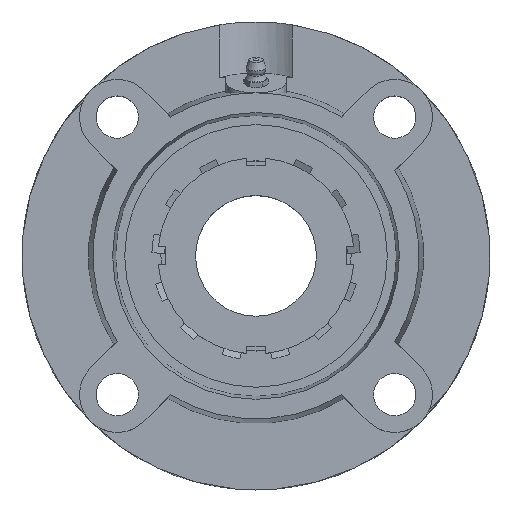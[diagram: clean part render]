
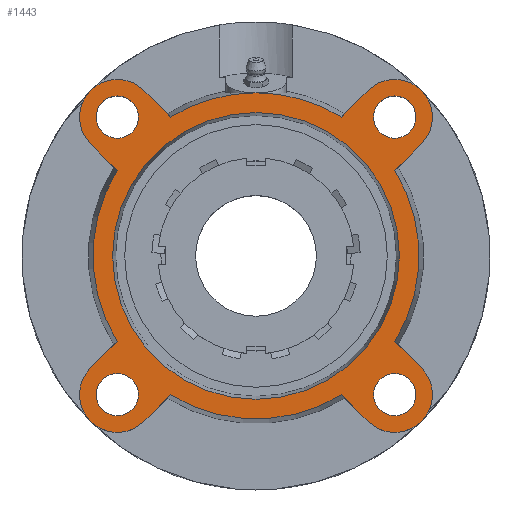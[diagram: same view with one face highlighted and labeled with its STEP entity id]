
A CAD part, top view. The second image highlights one B-rep face of the part: STEP entity #1443.
In plain terms, the highlighted planar face has unit normal (0, 0, 1).
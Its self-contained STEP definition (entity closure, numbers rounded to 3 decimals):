
#181=CARTESIAN_POINT('',(38.962,-45.962,17.));
#182=VERTEX_POINT('',#181);
#183=CARTESIAN_POINT('',(45.962,-45.962,17.));
#184=DIRECTION('',(0.0,0.0,-1.0));
#185=DIRECTION('',(1.0,0.0,0.0));
#186=AXIS2_PLACEMENT_3D('',#183,#184,#185);
#187=CIRCLE('',#186,7.);
#188=EDGE_CURVE('',#182,#182,#187,.T.);
#209=CARTESIAN_POINT('',(-52.962,45.962,17.));
#210=VERTEX_POINT('',#209);
#211=CARTESIAN_POINT('',(-45.962,45.962,17.));
#212=DIRECTION('',(0.0,0.0,-1.0));
#213=DIRECTION('',(1.0,0.0,0.0));
#214=AXIS2_PLACEMENT_3D('',#211,#212,#213);
#215=CIRCLE('',#214,7.);
#216=EDGE_CURVE('',#210,#210,#215,.T.);
#237=CARTESIAN_POINT('',(-52.962,-45.962,17.));
#238=VERTEX_POINT('',#237);
#239=CARTESIAN_POINT('',(-45.962,-45.962,17.));
#240=DIRECTION('',(0.0,0.0,-1.0));
#241=DIRECTION('',(1.0,0.0,0.0));
#242=AXIS2_PLACEMENT_3D('',#239,#240,#241);
#243=CIRCLE('',#242,7.);
#244=EDGE_CURVE('',#238,#238,#243,.T.);
#265=CARTESIAN_POINT('',(38.962,45.962,17.));
#266=VERTEX_POINT('',#265);
#267=CARTESIAN_POINT('',(45.962,45.962,17.));
#268=DIRECTION('',(0.0,0.0,-1.0));
#269=DIRECTION('',(1.0,0.0,0.0));
#270=AXIS2_PLACEMENT_3D('',#267,#268,#269);
#271=CIRCLE('',#270,7.);
#272=EDGE_CURVE('',#266,#266,#271,.T.);
#445=CARTESIAN_POINT('',(0.0,47.5,17.));
#446=VERTEX_POINT('',#445);
#447=CARTESIAN_POINT('',(0.0,0.,17.));
#448=DIRECTION('',(0.0,0.0,-1.0));
#449=DIRECTION('',(0.0,1.0,0.0));
#450=AXIS2_PLACEMENT_3D('',#447,#448,#449);
#451=CIRCLE('',#450,47.5);
#452=EDGE_CURVE('',#446,#446,#451,.T.);
#722=CARTESIAN_POINT('',(0.,54.0,17.));
#723=VERTEX_POINT('',#722);
#845=CARTESIAN_POINT('',(-28.308,45.986,17.));
#846=VERTEX_POINT('',#845);
#860=CARTESIAN_POINT('',(0.0,0.,17.));
#861=DIRECTION('',(0.0,0.0,-1.0));
#862=DIRECTION('',(0.0,1.0,0.0));
#863=AXIS2_PLACEMENT_3D('',#860,#861,#862);
#864=CIRCLE('',#863,54.0);
#865=EDGE_CURVE('',#846,#723,#864,.T.);
#878=CARTESIAN_POINT('',(28.308,45.986,17.));
#879=VERTEX_POINT('',#878);
#880=CARTESIAN_POINT('',(0.0,0.,17.));
#881=DIRECTION('',(0.0,0.0,-1.0));
#882=DIRECTION('',(0.0,1.0,0.0));
#883=AXIS2_PLACEMENT_3D('',#880,#881,#882);
#884=CIRCLE('',#883,54.0);
#885=EDGE_CURVE('',#723,#879,#884,.T.);
#909=CARTESIAN_POINT('',(-45.986,28.308,17.));
#910=VERTEX_POINT('',#909);
#926=CARTESIAN_POINT('',(-54.801,37.123,17.));
#927=VERTEX_POINT('',#926);
#928=CARTESIAN_POINT('',(-45.986,28.308,17.));
#929=DIRECTION('',(-0.707,0.707,0.0));
#930=VECTOR('',#929,12.467);
#931=LINE('',#928,#930);
#932=EDGE_CURVE('',#910,#927,#931,.T.);
#956=CARTESIAN_POINT('',(-28.308,-45.986,17.0));
#957=VERTEX_POINT('',#956);
#973=CARTESIAN_POINT('',(-37.123,-54.801,17.0));
#974=VERTEX_POINT('',#973);
#975=CARTESIAN_POINT('',(-28.308,-45.986,17.));
#976=DIRECTION('',(-0.707,-0.707,0.0));
#977=VECTOR('',#976,12.467);
#978=LINE('',#975,#977);
#979=EDGE_CURVE('',#957,#974,#978,.T.);
#1003=CARTESIAN_POINT('',(45.986,-28.308,17.0));
#1004=VERTEX_POINT('',#1003);
#1020=CARTESIAN_POINT('',(54.801,-37.123,17.0));
#1021=VERTEX_POINT('',#1020);
#1022=CARTESIAN_POINT('',(45.986,-28.308,17.));
#1023=DIRECTION('',(0.707,-0.707,0.0));
#1024=VECTOR('',#1023,12.467);
#1025=LINE('',#1022,#1024);
#1026=EDGE_CURVE('',#1004,#1021,#1025,.T.);
#1051=CARTESIAN_POINT('',(37.123,54.801,17.));
#1052=VERTEX_POINT('',#1051);
#1053=CARTESIAN_POINT('',(28.308,45.986,17.));
#1054=DIRECTION('',(0.707,0.707,0.0));
#1055=VECTOR('',#1054,12.467);
#1056=LINE('',#1053,#1055);
#1057=EDGE_CURVE('',#879,#1052,#1056,.T.);
#1076=CARTESIAN_POINT('',(28.308,-45.986,17.0));
#1077=VERTEX_POINT('',#1076);
#1099=CARTESIAN_POINT('',(37.123,-54.801,17.0));
#1100=VERTEX_POINT('',#1099);
#1107=CARTESIAN_POINT('',(37.123,-54.801,17.));
#1108=DIRECTION('',(-0.707,0.707,0.));
#1109=VECTOR('',#1108,12.467);
#1110=LINE('',#1107,#1109);
#1111=EDGE_CURVE('',#1100,#1077,#1110,.T.);
#1121=CARTESIAN_POINT('',(-54.801,-37.123,17.0));
#1122=VERTEX_POINT('',#1121);
#1123=CARTESIAN_POINT('',(-45.962,-45.962,17.));
#1124=DIRECTION('',(0.0,0.0,-1.0));
#1125=DIRECTION('',(-0.636,0.772,0.0));
#1126=AXIS2_PLACEMENT_3D('',#1123,#1124,#1125);
#1127=CIRCLE('',#1126,12.5);
#1128=EDGE_CURVE('',#974,#1122,#1127,.T.);
#1163=CARTESIAN_POINT('',(-45.986,-28.308,17.));
#1164=VERTEX_POINT('',#1163);
#1185=CARTESIAN_POINT('',(-54.801,-37.123,17.));
#1186=DIRECTION('',(0.707,0.707,0.));
#1187=VECTOR('',#1186,12.467);
#1188=LINE('',#1185,#1187);
#1189=EDGE_CURVE('',#1122,#1164,#1188,.T.);
#1199=CARTESIAN_POINT('',(-37.123,54.801,17.));
#1200=VERTEX_POINT('',#1199);
#1201=CARTESIAN_POINT('',(-45.962,45.962,17.));
#1202=DIRECTION('',(0.0,0.0,-1.0));
#1203=DIRECTION('',(0.772,0.636,0.0));
#1204=AXIS2_PLACEMENT_3D('',#1201,#1202,#1203);
#1205=CIRCLE('',#1204,12.5);
#1206=EDGE_CURVE('',#927,#1200,#1205,.T.);
#1234=CARTESIAN_POINT('',(-37.123,54.801,17.));
#1235=DIRECTION('',(0.707,-0.707,0.));
#1236=VECTOR('',#1235,12.467);
#1237=LINE('',#1234,#1236);
#1238=EDGE_CURVE('',#1200,#846,#1237,.T.);
#1248=CARTESIAN_POINT('',(54.801,37.123,17.));
#1249=VERTEX_POINT('',#1248);
#1250=CARTESIAN_POINT('',(45.962,45.962,17.));
#1251=DIRECTION('',(0.0,0.0,-1.0));
#1252=DIRECTION('',(0.636,-0.772,0.0));
#1253=AXIS2_PLACEMENT_3D('',#1250,#1251,#1252);
#1254=CIRCLE('',#1253,12.5);
#1255=EDGE_CURVE('',#1052,#1249,#1254,.T.);
#1284=CARTESIAN_POINT('',(45.986,28.308,17.));
#1285=VERTEX_POINT('',#1284);
#1306=CARTESIAN_POINT('',(54.801,37.123,17.));
#1307=DIRECTION('',(-0.707,-0.707,0.));
#1308=VECTOR('',#1307,12.467);
#1309=LINE('',#1306,#1308);
#1310=EDGE_CURVE('',#1249,#1285,#1309,.T.);
#1320=CARTESIAN_POINT('',(45.962,-45.962,17.));
#1321=DIRECTION('',(0.0,0.0,-1.0));
#1322=DIRECTION('',(-0.772,-0.636,0.0));
#1323=AXIS2_PLACEMENT_3D('',#1320,#1321,#1322);
#1324=CIRCLE('',#1323,12.5);
#1325=EDGE_CURVE('',#1021,#1100,#1324,.T.);
#1386=CARTESIAN_POINT('',(0.0,27.0,17.));
#1387=DIRECTION('',(0.0,0.0,1.0));
#1388=DIRECTION('',(1.0,0.0,0.0));
#1389=AXIS2_PLACEMENT_3D('',#1386,#1387,#1388);
#1390=PLANE('',#1389);
#1391=CARTESIAN_POINT('',(0.0,0.,17.));
#1392=DIRECTION('',(0.0,0.0,-1.0));
#1393=DIRECTION('',(0.0,1.0,0.0));
#1394=AXIS2_PLACEMENT_3D('',#1391,#1392,#1393);
#1395=CIRCLE('',#1394,54.0);
#1396=EDGE_CURVE('',#1077,#957,#1395,.T.);
#1397=ORIENTED_EDGE('',*,*,#1396,.F.);
#1398=ORIENTED_EDGE('',*,*,#1111,.F.);
#1399=ORIENTED_EDGE('',*,*,#1325,.F.);
#1400=ORIENTED_EDGE('',*,*,#1026,.F.);
#1401=CARTESIAN_POINT('',(0.0,0.,17.));
#1402=DIRECTION('',(0.0,0.0,-1.0));
#1403=DIRECTION('',(0.0,1.0,0.0));
#1404=AXIS2_PLACEMENT_3D('',#1401,#1402,#1403);
#1405=CIRCLE('',#1404,54.0);
#1406=EDGE_CURVE('',#1285,#1004,#1405,.T.);
#1407=ORIENTED_EDGE('',*,*,#1406,.F.);
#1408=ORIENTED_EDGE('',*,*,#1310,.F.);
#1409=ORIENTED_EDGE('',*,*,#1255,.F.);
#1410=ORIENTED_EDGE('',*,*,#1057,.F.);
#1411=ORIENTED_EDGE('',*,*,#885,.F.);
#1412=ORIENTED_EDGE('',*,*,#865,.F.);
#1413=ORIENTED_EDGE('',*,*,#1238,.F.);
#1414=ORIENTED_EDGE('',*,*,#1206,.F.);
#1415=ORIENTED_EDGE('',*,*,#932,.F.);
#1416=CARTESIAN_POINT('',(0.0,0.,17.));
#1417=DIRECTION('',(0.0,0.0,-1.0));
#1418=DIRECTION('',(0.0,1.0,0.0));
#1419=AXIS2_PLACEMENT_3D('',#1416,#1417,#1418);
#1420=CIRCLE('',#1419,54.0);
#1421=EDGE_CURVE('',#1164,#910,#1420,.T.);
#1422=ORIENTED_EDGE('',*,*,#1421,.F.);
#1423=ORIENTED_EDGE('',*,*,#1189,.F.);
#1424=ORIENTED_EDGE('',*,*,#1128,.F.);
#1425=ORIENTED_EDGE('',*,*,#979,.F.);
#1426=EDGE_LOOP('',(#1397,#1398,#1399,#1400,#1407,#1408,#1409,#1410,#1411,#1412,#1413,#1414,#1415,#1422,#1423,#1424,#1425));
#1427=FACE_OUTER_BOUND('',#1426,.T.);
#1428=ORIENTED_EDGE('',*,*,#188,.T.);
#1429=EDGE_LOOP('',(#1428));
#1430=FACE_BOUND('',#1429,.T.);
#1431=ORIENTED_EDGE('',*,*,#216,.T.);
#1432=EDGE_LOOP('',(#1431));
#1433=FACE_BOUND('',#1432,.T.);
#1434=ORIENTED_EDGE('',*,*,#244,.T.);
#1435=EDGE_LOOP('',(#1434));
#1436=FACE_BOUND('',#1435,.T.);
#1437=ORIENTED_EDGE('',*,*,#272,.T.);
#1438=EDGE_LOOP('',(#1437));
#1439=FACE_BOUND('',#1438,.T.);
#1440=ORIENTED_EDGE('',*,*,#452,.T.);
#1441=EDGE_LOOP('',(#1440));
#1442=FACE_BOUND('',#1441,.T.);
#1443=ADVANCED_FACE('',(#1427,#1430,#1433,#1436,#1439,#1442),#1390,.T.);
